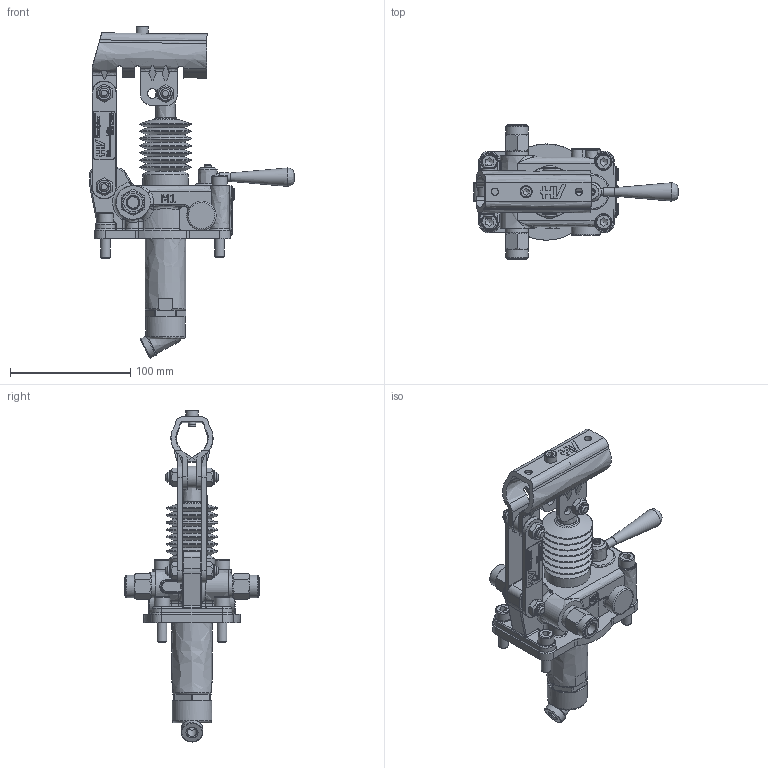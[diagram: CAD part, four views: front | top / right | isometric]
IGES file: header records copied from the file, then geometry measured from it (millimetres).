
Global section: file name: No Iges File Name specified; native system: Autodesk Inventor 2013; preprocessor: AutoDesk Inventor Iges Exporter R2013; author: christian.scardovi; date: 20240307.145358; units: millimetre
Bounding box: 170 x 112 x 276.08 mm (x, y, z)
Volume: 460868.2 mm3; surface area: 129976.9 mm2
Topology: 3 solids, 3 shells, 1682 faces, 4290 edges, 2721 vertices
Faces by surface type: bspline 1682
